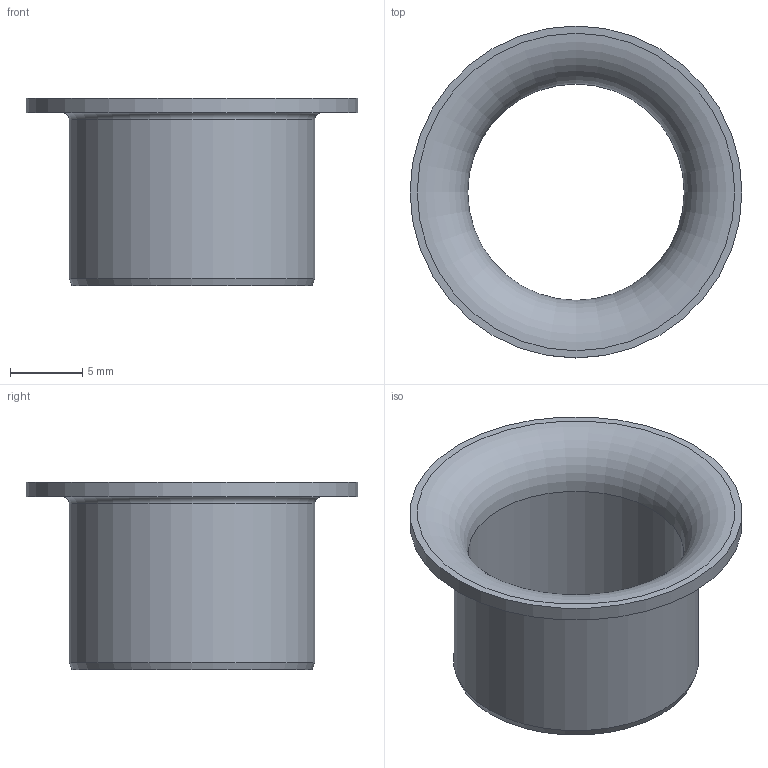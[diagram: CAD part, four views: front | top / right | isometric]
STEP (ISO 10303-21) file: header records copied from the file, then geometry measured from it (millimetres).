
FILE_DESCRIPTION(/* description */ ('STEP AP242 Edition 2','CAx-IF Rec.Pracs.---Representation and Presentation of Product Manufacturing Information (PMI)---4.0---2014-10-13','CAx-IF Rec.Pracs.---3D Tessellated Geometry---0.4---2014-09-14','2;1','CAx-IF Rec.Pracs.---User Defined Attributes---1.5---2016-08-15'),/* implementation_level */ '2;1');
FILE_NAME(/* name */ 'Assy_ForMFG - MZDF-15-12',/* time_stamp */ '2026-05-15T19:56:54Z',/* author */ (''),/* organization */ (''),/* preprocessor_version */ 'ST-DEVELOPER v20',/* originating_system */ 'ONSHAPE BY PTC INC, 1.215',/* authorisation */ ' ');
FILE_SCHEMA (('AP242_MANAGED_MODEL_BASED_3D_ENGINEERING_MIM_LF { 1 0 10303 442 3 1 4 }'));
Length unit declared in the file: metre
Products named in the file (1): MZDF-15-12
Bounding box: 23 x 23 x 13 mm (x, y, z)
Volume: 699.6 mm3; surface area: 1704.9 mm2
Topology: 1 solids, 1 shells, 10 faces, 19 edges, 12 vertices
Faces by surface type: cylinder 3, plane 3, torus 2, cone 2
Full cylindrical faces by diameter (mm): 15 x1, 17 x1, 23 x1
Entity records: 230 total; most frequent: DIRECTION 42, CARTESIAN_POINT 31, AXIS2_PLACEMENT_3D 21, ORIENTED_EDGE 20, EDGE_LOOP 20, FACE_BOUND 20, EDGE_CURVE 10, VERTEX_POINT 10
